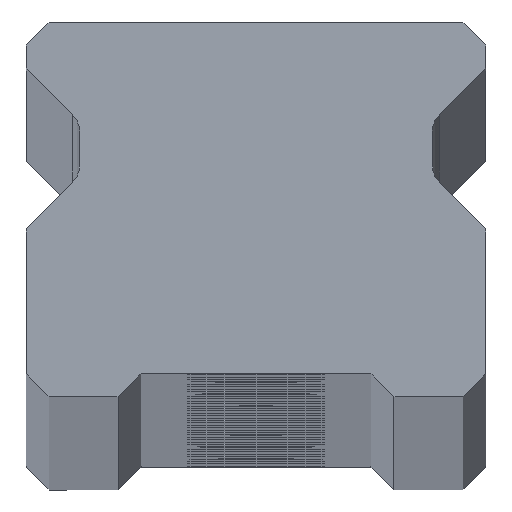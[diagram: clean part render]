
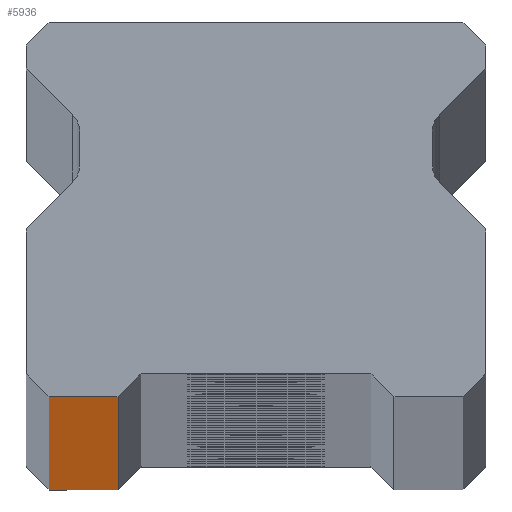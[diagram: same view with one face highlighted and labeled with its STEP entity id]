
A CAD part, top view. The second image highlights one B-rep face of the part: STEP entity #5936.
In plain terms, the highlighted planar face has unit normal (0, -1, 0).
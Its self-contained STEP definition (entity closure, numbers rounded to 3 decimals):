
#190 = VERTEX_POINT ( 'NONE', #193 ) ;
#193 = CARTESIAN_POINT ( 'NONE',  ( -6., 0., 1160. ) ) ;
#293 = CARTESIAN_POINT ( 'NONE',  ( 10., 0., 1160. ) ) ;
#778 = VERTEX_POINT ( 'NONE', #2631 ) ;
#880 = PLANE ( 'NONE',  #2023 ) ;
#1074 = LINE ( 'NONE', #2683, #3672 ) ;
#1298 = EDGE_CURVE ( 'NONE', #778, #190, #6281, .T. ) ;
#1327 = FACE_OUTER_BOUND ( 'NONE', #2478, .T. ) ;
#1489 = CARTESIAN_POINT ( 'NONE',  ( -6., 0., -1160. ) ) ;
#1640 = ORIENTED_EDGE ( 'NONE', *, *, #3463, .T. ) ;
#2020 = DIRECTION ( 'NONE',  ( 0., 0., 1. ) ) ;
#2023 = AXIS2_PLACEMENT_3D ( 'NONE', #293, #3610, #6788 ) ;
#2399 = CARTESIAN_POINT ( 'NONE',  ( -9., 0., 1160. ) ) ;
#2461 = EDGE_CURVE ( 'NONE', #5323, #778, #5423, .T. ) ;
#2478 = EDGE_LOOP ( 'NONE', ( #4773, #5723, #5788, #1640 ) ) ;
#2631 = CARTESIAN_POINT ( 'NONE',  ( -6., 0., -1160. ) ) ;
#2683 = CARTESIAN_POINT ( 'NONE',  ( -9., 0., 1160. ) ) ;
#3026 = VECTOR ( 'NONE', #2020, 1000. ) ;
#3123 = EDGE_CURVE ( 'NONE', #5697, #190, #3156, .T. ) ;
#3156 = LINE ( 'NONE', #5996, #5416 ) ;
#3463 = EDGE_CURVE ( 'NONE', #5697, #5323, #1074, .T. ) ;
#3610 = DIRECTION ( 'NONE',  ( 0., 1., 0. ) ) ;
#3672 = VECTOR ( 'NONE', #3729, 1000. ) ;
#3729 = DIRECTION ( 'NONE',  ( 0., 0., -1. ) ) ;
#4663 = VECTOR ( 'NONE', #6687, 1000. ) ;
#4773 = ORIENTED_EDGE ( 'NONE', *, *, #2461, .T. ) ;
#5323 = VERTEX_POINT ( 'NONE', #6597 ) ;
#5416 = VECTOR ( 'NONE', #6540, 1000. ) ;
#5423 = LINE ( 'NONE', #6635, #4663 ) ;
#5697 = VERTEX_POINT ( 'NONE', #2399 ) ;
#5723 = ORIENTED_EDGE ( 'NONE', *, *, #1298, .T. ) ;
#5788 = ORIENTED_EDGE ( 'NONE', *, *, #3123, .F. ) ;
#5936 = ADVANCED_FACE ( 'NONE', ( #1327 ), #880, .F. ) ;
#5996 = CARTESIAN_POINT ( 'NONE',  ( 10., 0., 1160. ) ) ;
#6281 = LINE ( 'NONE', #1489, #3026 ) ;
#6540 = DIRECTION ( 'NONE',  ( 1., 0., 0. ) ) ;
#6597 = CARTESIAN_POINT ( 'NONE',  ( -9., 0., -1160. ) ) ;
#6635 = CARTESIAN_POINT ( 'NONE',  ( 10., 0., -1160. ) ) ;
#6687 = DIRECTION ( 'NONE',  ( 1., 0., 0. ) ) ;
#6788 = DIRECTION ( 'NONE',  ( -1., 0., 0. ) ) ;
